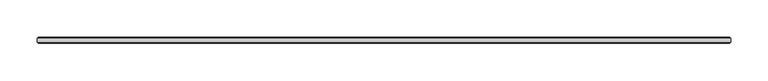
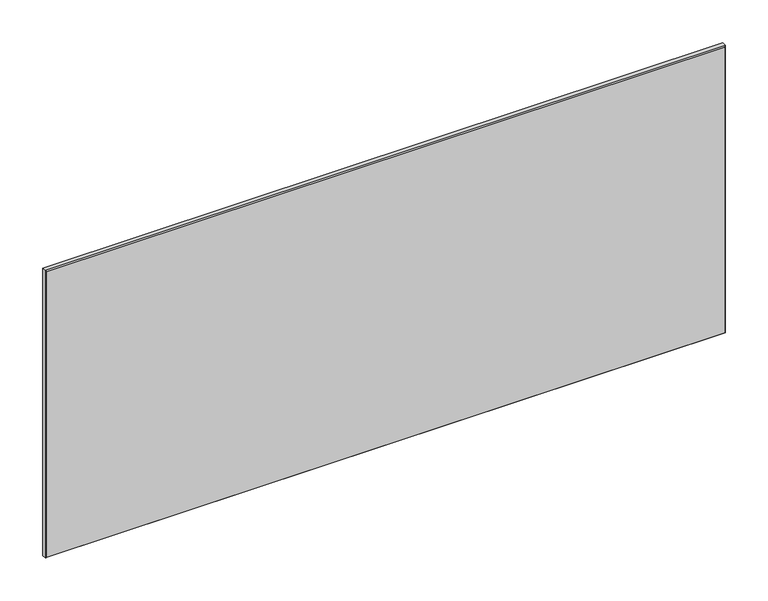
"""IFC4 building model written with IfcOpenShell, lengths in millimetres: plate geometry, 1-AMG-1-Панель одинарный витраж 8, 10 : Смещение 32 Толщина 8mm."""

from ifc_helpers import new_model, si_unit, origin, place, context, project, spatial, faceted_brep, source, transform, mapped, element, save


def plate_47663f49(model_context):
    return source(origin(), model_context, "Body", "Brep", [
        faceted_brep([(463.8739581, 29.5038347, 407.9023438), (463.8739581, 34.4961653, 407.9023438), (-463.8739581, 34.4961653, 407.9023438), (-463.8739581, 29.5038347, 407.9023438), (463.8739581, 34.4961653, -7.0), (463.8739581, 29.5038347, -7.0), (-463.8739581, 29.5038347, -7.0), (-463.8739581, 34.4961653, -7.0), (-462.3701234, 36.0, 406.3985091), (462.3701234, 36.0, 406.3985091), (462.3701234, 36.0, -5.5039422), (-462.3701234, 36.0, -5.5039422), (462.3701234, 28.0, 406.3985091), (-462.3701234, 28.0, 406.3985091), (-462.3701234, 28.0, -5.4961653), (462.3701234, 28.0, -5.4961653)], [[[0, 1, 2, 3]], [[4, 5, 6, 7]], [[8, 9, 10, 11]], [[3, 2, 7, 6]], [[12, 13, 14, 15]], [[1, 0, 5, 4]], [[1, 4, 10, 9]], [[5, 0, 12, 15]], [[7, 2, 8, 11]], [[3, 6, 14, 13]], [[0, 3, 13, 12]], [[2, 1, 9, 8]], [[6, 5, 15, 14]], [[4, 7, 11, 10]]]),
    ])


if __name__ == "__main__":
    model = new_model("IFC4")
    model_context = context("Model", 3, world=origin())
    ifc_project = project(units=[si_unit("LENGTHUNIT", "METRE", prefix="MILLI")], contexts=[model_context])
    site = spatial("IfcSite", under=ifc_project)
    building = spatial("IfcBuilding", under=site)
    placement = place(None, origin())
    plate_shape = plate_47663f49(model_context)
    element("IfcPlate", 1, ObjectType="1-AMG-1-Панель одинарный витраж 8, 10 : Смещение 32 Толщина 8mm", at=placement, inside=building, context=model_context, shape_type="MappedRepresentation", body=[
        mapped(plate_shape, transform((0.0, 0.0, 0.0), x_axis=(1.0, 0.0, 0.0), y_axis=(0.0, 1.0, 0.0), z_axis=(0.0, 0.0, 1.0))),
    ])
    save(model, "model.ifc")
